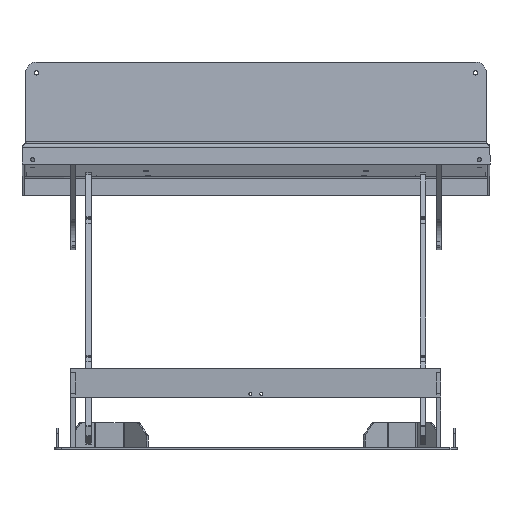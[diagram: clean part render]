
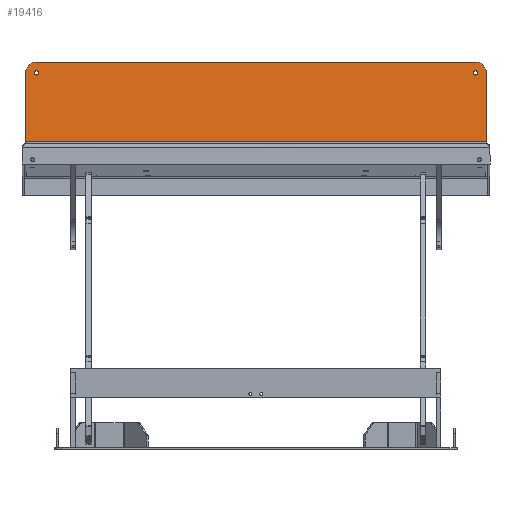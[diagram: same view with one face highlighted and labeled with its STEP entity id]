
A CAD part, left-side view. The second image highlights one B-rep face of the part: STEP entity #19416.
In plain terms, the highlighted planar face has unit normal (-0.996, 0, 0.087) as drawn and (0, 0, 1) by its records, which use the part's own axes.
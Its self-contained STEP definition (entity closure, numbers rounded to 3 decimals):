
#371=FACE_BOUND('',#2958,.T.);
#372=FACE_BOUND('',#2959,.T.);
#729=PLANE('',#21817);
#1735=FACE_OUTER_BOUND('',#2957,.T.);
#2957=EDGE_LOOP('',(#17762,#17763,#17764,#17765,#17766,#17767));
#2958=EDGE_LOOP('',(#17768));
#2959=EDGE_LOOP('',(#17769));
#4505=LINE('',#34054,#6063);
#4511=LINE('',#34070,#6069);
#4516=LINE('',#34087,#6074);
#4517=LINE('',#34089,#6075);
#6063=VECTOR('',#27922,10.);
#6069=VECTOR('',#27938,10.);
#6074=VECTOR('',#27963,10.);
#6075=VECTOR('',#27966,10.);
#7314=CIRCLE('',#21765,6.);
#7316=CIRCLE('',#21768,6.);
#7334=CIRCLE('',#21798,30.);
#7337=CIRCLE('',#21804,30.);
#9210=VERTEX_POINT('',#33970);
#9212=VERTEX_POINT('',#33975);
#9237=VERTEX_POINT('',#34041);
#9238=VERTEX_POINT('',#34042);
#9242=VERTEX_POINT('',#34052);
#9246=VERTEX_POINT('',#34064);
#9247=VERTEX_POINT('',#34068);
#9249=VERTEX_POINT('',#34082);
#12034=EDGE_CURVE('',#9210,#9210,#7314,.T.);
#12036=EDGE_CURVE('',#9212,#9212,#7316,.T.);
#12065=EDGE_CURVE('',#9237,#9238,#7334,.T.);
#12071=EDGE_CURVE('',#9242,#9237,#4505,.T.);
#12076=EDGE_CURVE('',#9246,#9242,#7337,.T.);
#12079=EDGE_CURVE('',#9247,#9246,#4511,.T.);
#12088=EDGE_CURVE('',#9247,#9249,#4516,.T.);
#12089=EDGE_CURVE('',#9238,#9249,#4517,.T.);
#17762=ORIENTED_EDGE('',*,*,#12065,.F.);
#17763=ORIENTED_EDGE('',*,*,#12071,.F.);
#17764=ORIENTED_EDGE('',*,*,#12076,.F.);
#17765=ORIENTED_EDGE('',*,*,#12079,.F.);
#17766=ORIENTED_EDGE('',*,*,#12088,.T.);
#17767=ORIENTED_EDGE('',*,*,#12089,.F.);
#17768=ORIENTED_EDGE('',*,*,#12034,.T.);
#17769=ORIENTED_EDGE('',*,*,#12036,.T.);
#19416=ADVANCED_FACE('',(#1735,#371,#372),#729,.T.);
#21765=AXIS2_PLACEMENT_3D('',#33971,#27835,#27836);
#21768=AXIS2_PLACEMENT_3D('',#33976,#27841,#27842);
#21798=AXIS2_PLACEMENT_3D('',#34043,#27912,#27913);
#21804=AXIS2_PLACEMENT_3D('',#34065,#27932,#27933);
#21817=AXIS2_PLACEMENT_3D('',#34090,#27967,#27968);
#27835=DIRECTION('center_axis',(0.,0.,-1.));
#27836=DIRECTION('ref_axis',(1.,0.,0.));
#27841=DIRECTION('center_axis',(0.,0.,-1.));
#27842=DIRECTION('ref_axis',(1.,0.,0.));
#27912=DIRECTION('center_axis',(0.,0.,-1.));
#27913=DIRECTION('ref_axis',(0.707,0.707,0.));
#27922=DIRECTION('',(1.,0.,0.));
#27932=DIRECTION('center_axis',(0.,0.,-1.));
#27933=DIRECTION('ref_axis',(-0.707,0.707,0.));
#27938=DIRECTION('',(0.,1.,0.));
#27963=DIRECTION('',(1.,0.,0.));
#27966=DIRECTION('',(0.,-1.,0.));
#27967=DIRECTION('center_axis',(0.,0.,1.));
#27968=DIRECTION('ref_axis',(1.,0.,0.));
#33970=CARTESIAN_POINT('',(616.,85.,4.));
#33971=CARTESIAN_POINT('Origin',(610.,85.,4.));
#33975=CARTESIAN_POINT('',(-604.,85.,4.));
#33976=CARTESIAN_POINT('Origin',(-610.,85.,4.));
#34041=CARTESIAN_POINT('',(610.,115.,4.));
#34042=CARTESIAN_POINT('',(640.,85.,4.));
#34043=CARTESIAN_POINT('Origin',(610.,85.,4.));
#34052=CARTESIAN_POINT('',(-610.,115.,4.));
#34054=CARTESIAN_POINT('',(640.,115.,4.));
#34064=CARTESIAN_POINT('',(-640.,85.,4.));
#34065=CARTESIAN_POINT('Origin',(-610.,85.,4.));
#34068=CARTESIAN_POINT('',(-640.,-107.,4.));
#34070=CARTESIAN_POINT('',(-640.,115.,4.));
#34082=CARTESIAN_POINT('',(640.,-107.,4.));
#34087=CARTESIAN_POINT('',(320.,-107.,4.));
#34089=CARTESIAN_POINT('',(640.,-115.,4.));
#34090=CARTESIAN_POINT('Origin',(0.,0.,
4.));
